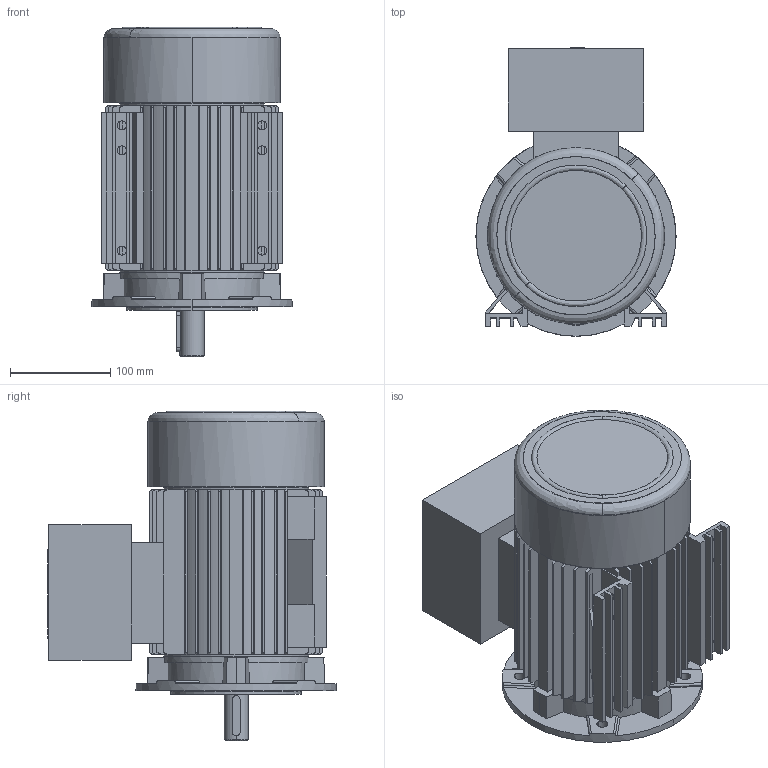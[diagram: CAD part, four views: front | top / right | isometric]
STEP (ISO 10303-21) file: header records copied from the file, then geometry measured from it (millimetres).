
FILE_DESCRIPTION (( 'STEP AP214' ), '1' );
FILE_NAME ('20.17499-E 5AT 90 B35 Exde STANDK.STEP', '2018-11-15T10:10:28', ( '' ), ( '' ), 'SwSTEP 2.0', 'SolidWorks 2018', '' );
FILE_SCHEMA (( 'AUTOMOTIVE_DESIGN' ));
Length unit declared in the file: millimetre
Products named in the file (1): 20.17499-E 5AT 90 B35 Exde STANDK
Bounding box: 199.9 x 287.95 x 329 mm (x, y, z)
Volume: 3919050.9 mm3; surface area: 780124.2 mm2
Topology: 4 solids, 12 shells, 834 faces, 2168 edges, 1405 vertices
Faces by surface type: plane 390, cylinder 231, cone 155, bspline 58
Entity records: 35618 total; most frequent: CARTESIAN_POINT 8370, ORIENTED_EDGE 4304, DIRECTION 4021, EDGE_CURVE 2152, AXIS2_PLACEMENT_3D 1454, VERTEX_POINT 1405, VECTOR 1113, LINE 1113
